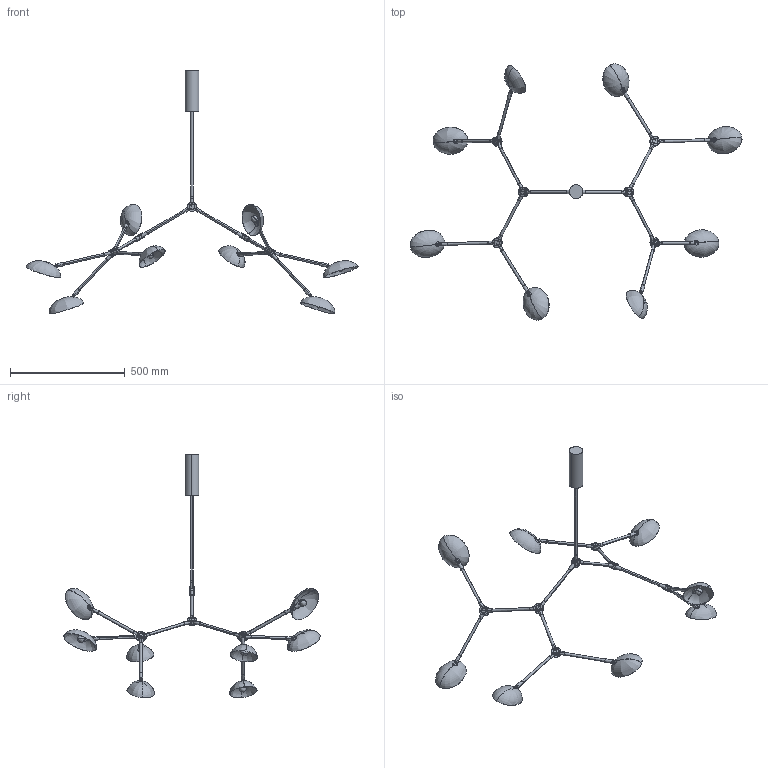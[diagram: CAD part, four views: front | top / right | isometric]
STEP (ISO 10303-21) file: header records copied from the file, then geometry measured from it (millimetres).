
FILE_DESCRIPTION(/* description */ (''),/* implementation_level */ '2;1');
FILE_NAME(/* name */ 'DCDP',/* time_stamp */ '2020-03-02T16:23:08+01:00',/* author */ (''),/* organization */ (''),/* preprocessor_version */ 'ST-DEVELOPER v15',/* originating_system */ '',/* authorisation */ '');
FILE_SCHEMA (('AUTOMOTIVE_DESIGN'));
Length unit declared in the file: millimetre
Products named in the file (1): Document
Bounding box: 1448.48 x 1118.62 x 1062.37 mm (x, y, z)
Volume: 1480430.1 mm3; surface area: 691352 mm2
Topology: 114 solids, 114 shells, 636 faces, 1188 edges, 652 vertices
Faces by surface type: bspline 444, plane 192
Entity records: 27594 total; most frequent: CARTESIAN_POINT 20558, ORIENTED_EDGE 2136, EDGE_CURVE 1068, VERTEX_POINT 652, ADVANCED_FACE 636, FACE_OUTER_BOUND 636, EDGE_LOOP 636, B_SPLINE_CURVE_WITH_KNOTS 332
